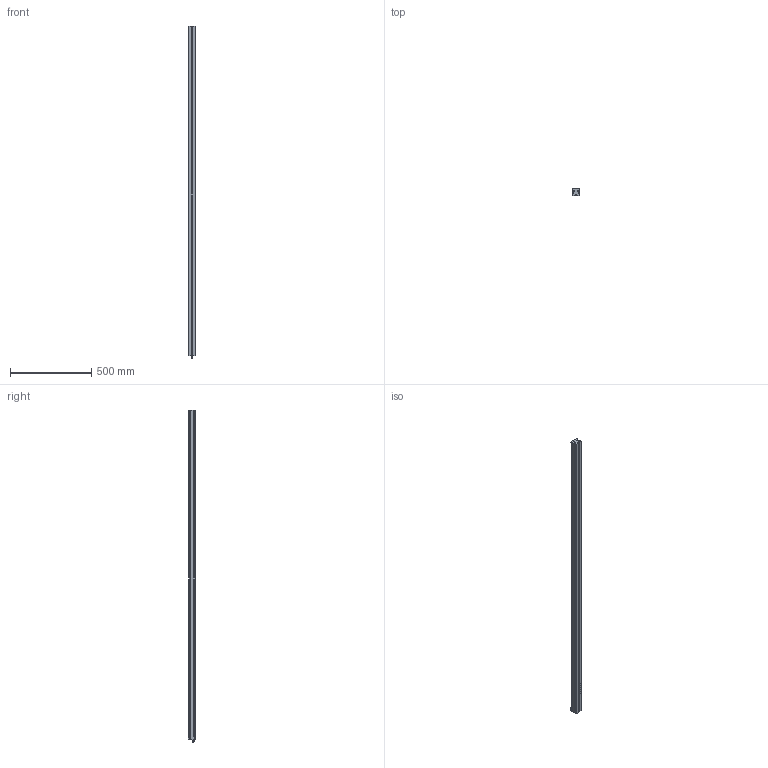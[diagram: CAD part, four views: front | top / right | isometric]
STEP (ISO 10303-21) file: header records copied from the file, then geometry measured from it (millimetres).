
FILE_DESCRIPTION (( 'STEP AP214' ), '1' );
FILE_NAME ('EBAR-HPS-2000-xxx-UN_CLIENT.STEP', '2025-11-18T13:07:53', ( '' ), ( '' ), 'SwSTEP 2.0', 'SolidWorks 2025', '' );
FILE_SCHEMA (( 'AUTOMOTIVE_DESIGN' ));
Length unit declared in the file: millimetre
Products named in the file (3): EBAR-HPS-xxx-xxx-xx_CLIENT - T-Power_2000; M4 T-Slot Nut; EBAR-HPS-2000-xxx-UN_CLIENT
Assembly tree (37 placements, depth 2):
  EBAR-HPS-2000-xxx-UN_CLIENT
    EBAR-HPS-xxx-xxx-xx_CLIENT - T-Power_2000
    M4 T-Slot Nut  x36
Bounding box: 47.63 x 45 x 2045.06 mm (x, y, z)
Volume: 3449061.8 mm3; surface area: 493281.3 mm2
Topology: 37 solids, 37 shells, 1424 faces, 3688 edges, 2428 vertices
Faces by surface type: plane 799, cylinder 371, bspline 140, torus 62, sphere 40, cone 12
Entity records: 29649 total; most frequent: CARTESIAN_POINT 10335, ORIENTED_EDGE 4138, DIRECTION 3640, EDGE_CURVE 2069, VERTEX_POINT 1343, AXIS2_PLACEMENT_3D 1252, VECTOR 1136, LINE 1136
